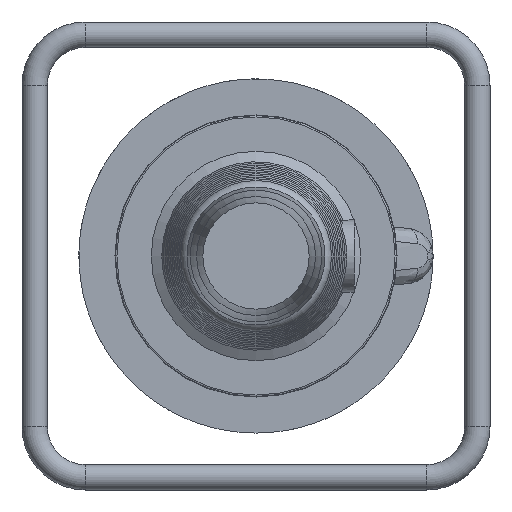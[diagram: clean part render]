
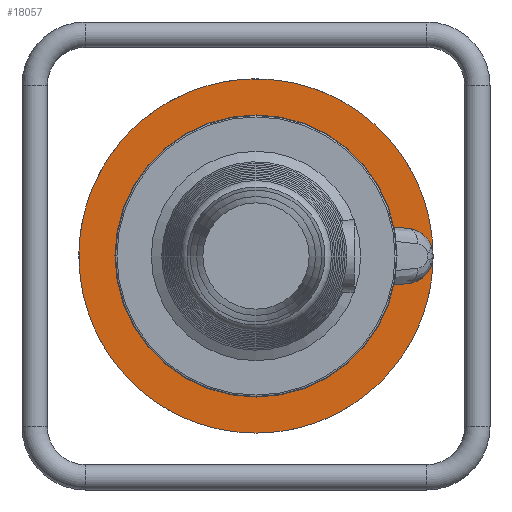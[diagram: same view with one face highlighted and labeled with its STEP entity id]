
A CAD part, left-side view. The second image highlights one B-rep face of the part: STEP entity #18057.
In plain terms, the highlighted planar face has unit normal (-1, 0, 0).
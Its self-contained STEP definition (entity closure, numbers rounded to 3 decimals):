
#949=PLANE('',#19394);
#2902=LINE('',#41965,#4025);
#2907=LINE('',#42325,#4030);
#4025=VECTOR('',#23059,10.);
#4030=VECTOR('',#23112,10.);
#5131=FACE_OUTER_BOUND('',#6190,.T.);
#6190=EDGE_LOOP('',(#16685,#16686,#16687,#16688,#16689,#16690,#16691,#16692,
#16693));
#6800=CIRCLE('',#19318,140.);
#6801=CIRCLE('',#19319,140.);
#6802=CIRCLE('',#19321,91.5);
#6828=CIRCLE('',#19360,10.);
#6845=CIRCLE('',#19386,10.);
#6850=CIRCLE('',#19392,22.);
#6851=CIRCLE('',#19393,22.);
#8589=VERTEX_POINT('',#41823);
#8590=VERTEX_POINT('',#41825);
#8592=VERTEX_POINT('',#41830);
#8593=VERTEX_POINT('',#41845);
#8620=VERTEX_POINT('',#41962);
#8621=VERTEX_POINT('',#41964);
#8644=VERTEX_POINT('',#42322);
#8645=VERTEX_POINT('',#42324);
#11242=EDGE_CURVE('',#8589,#8590,#6800,.T.);
#11243=EDGE_CURVE('',#8590,#8589,#6801,.T.);
#11245=EDGE_CURVE('',#8593,#8592,#6802,.T.);
#11283=EDGE_CURVE('',#8621,#8620,#2902,.T.);
#11287=EDGE_CURVE('',#8620,#8593,#6828,.T.);
#11320=EDGE_CURVE('',#8645,#8644,#2907,.T.);
#11326=EDGE_CURVE('',#8592,#8645,#6845,.T.);
#11333=EDGE_CURVE('',#8590,#8621,#6850,.T.);
#11334=EDGE_CURVE('',#8644,#8590,#6851,.T.);
#16685=ORIENTED_EDGE('',*,*,#11333,.T.);
#16686=ORIENTED_EDGE('',*,*,#11283,.T.);
#16687=ORIENTED_EDGE('',*,*,#11287,.T.);
#16688=ORIENTED_EDGE('',*,*,#11245,.T.);
#16689=ORIENTED_EDGE('',*,*,#11326,.T.);
#16690=ORIENTED_EDGE('',*,*,#11320,.T.);
#16691=ORIENTED_EDGE('',*,*,#11334,.T.);
#16692=ORIENTED_EDGE('',*,*,#11242,.F.);
#16693=ORIENTED_EDGE('',*,*,#11243,.F.);
#18057=ADVANCED_FACE('',(#5131),#949,.T.);
#19318=AXIS2_PLACEMENT_3D('',#41826,#22971,#22972);
#19319=AXIS2_PLACEMENT_3D('',#41827,#22973,#22974);
#19321=AXIS2_PLACEMENT_3D('',#41846,#22977,#22978);
#19360=AXIS2_PLACEMENT_3D('',#41978,#23063,#23064);
#19386=AXIS2_PLACEMENT_3D('',#42347,#23120,#23121);
#19392=AXIS2_PLACEMENT_3D('',#42547,#23132,#23133);
#19393=AXIS2_PLACEMENT_3D('',#42548,#23134,#23135);
#19394=AXIS2_PLACEMENT_3D('',#42549,#23136,#23137);
#22971=DIRECTION('center_axis',(1.,0.,0.));
#22972=DIRECTION('ref_axis',(0.,0.,
1.));
#22973=DIRECTION('center_axis',(1.,0.,0.));
#22974=DIRECTION('ref_axis',(0.,0.,
1.));
#22977=DIRECTION('center_axis',(1.,0.,0.));
#22978=DIRECTION('ref_axis',(0.,0.,
1.));
#23059=DIRECTION('',(0.,0.996,-0.087));
#23063=DIRECTION('center_axis',(-1.,0.,0.));
#23064=DIRECTION('ref_axis',(0.,0.087,0.996));
#23112=DIRECTION('',(0.,-0.996,-0.087));
#23120=DIRECTION('center_axis',(-1.,0.,0.));
#23121=DIRECTION('ref_axis',(0.,0.934,-0.358));
#23132=DIRECTION('center_axis',(1.,0.,0.));
#23133=DIRECTION('ref_axis',(0.,0.087,0.996));
#23134=DIRECTION('center_axis',(1.,0.,0.));
#23135=DIRECTION('ref_axis',(0.,0.087,0.996));
#23136=DIRECTION('center_axis',(-1.,0.,0.));
#23137=DIRECTION('ref_axis',(0.,1.,0.));
#41823=CARTESIAN_POINT('',(-17.009,-0.004,-140.));
#41825=CARTESIAN_POINT('',(-17.009,-140.004,0.));
#41826=CARTESIAN_POINT('Origin',(-17.009,-0.004,
0.));
#41827=CARTESIAN_POINT('Origin',(-17.009,-0.004,
0.));
#41830=CARTESIAN_POINT('',(-17.009,-88.088,24.768));
#41845=CARTESIAN_POINT('',(-17.009,-88.088,-24.768));
#41846=CARTESIAN_POINT('Origin',(-17.009,-0.004,
0.));
#41962=CARTESIAN_POINT('',(-17.009,-89.231,-24.601));
#41964=CARTESIAN_POINT('',(-17.009,-119.922,-21.916));
#41965=CARTESIAN_POINT('',(-17.009,-66.352,-26.603));
#41978=CARTESIAN_POINT('Origin',(-17.009,-90.102,-34.563));
#42322=CARTESIAN_POINT('',(-17.009,-119.922,21.916));
#42324=CARTESIAN_POINT('',(-17.009,-89.231,24.601));
#42325=CARTESIAN_POINT('',(-17.009,-41.043,28.817));
#42347=CARTESIAN_POINT('Origin',(-17.009,-90.102,34.563));
#42547=CARTESIAN_POINT('Origin',(-17.009,-118.004,0.));
#42548=CARTESIAN_POINT('Origin',(-17.009,-118.004,0.));
#42549=CARTESIAN_POINT('Origin',(-17.009,-0.004,
114.75));
